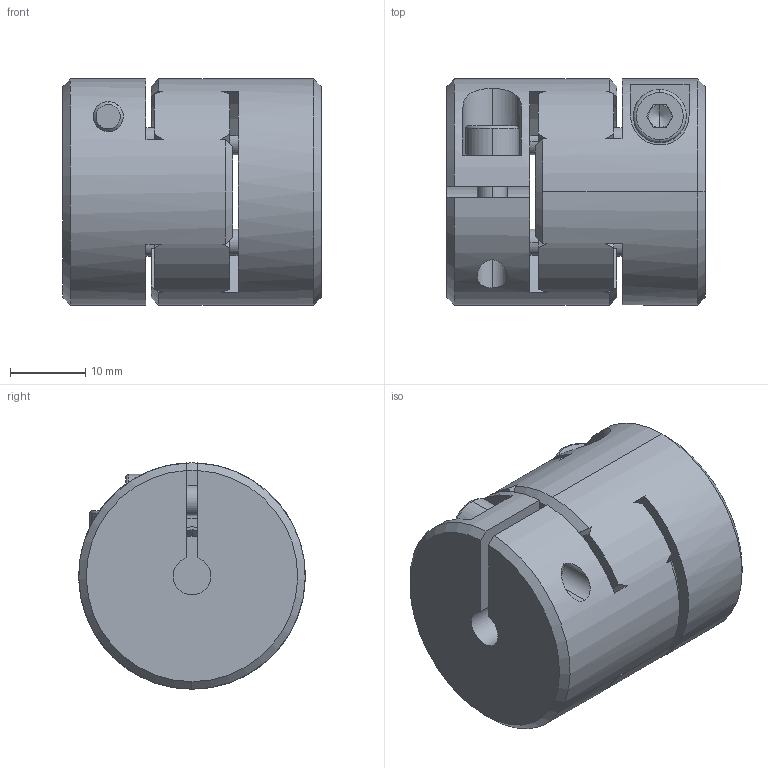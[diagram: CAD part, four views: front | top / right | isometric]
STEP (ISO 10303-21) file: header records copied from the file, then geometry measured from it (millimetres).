
FILE_DESCRIPTION((''),'2;1');
FILE_NAME('EKC-5','2026-03-30T11:02:32',('Administrator'),(''),'CREO PARAMETRIC BY PTC INC, 2020414','CREO PARAMETRIC BY PTC INC, 2020414','');
FILE_SCHEMA(('AUTOMOTIVE_DESIGN { 1 0 10303 214 1 1 1 1 }'));
Length unit declared in the file: millimetre
Products named in the file (1): EKC-5
Bounding box: 34.2 x 30 x 30 mm (x, y, z)
Volume: 20741.4 mm3; surface area: 8872.9 mm2
Topology: 1 solids, 1 shells, 171 faces, 487 edges, 315 vertices
Faces by surface type: cylinder 69, plane 52, cone 42, torus 8
Entity records: 6113 total; most frequent: CARTESIAN_POINT 1413, ORIENTED_EDGE 962, DIRECTION 960, EDGE_CURVE 481, AXIS2_PLACEMENT_3D 388, VERTEX_POINT 311, CIRCLE 216, EDGE_LOOP 194
